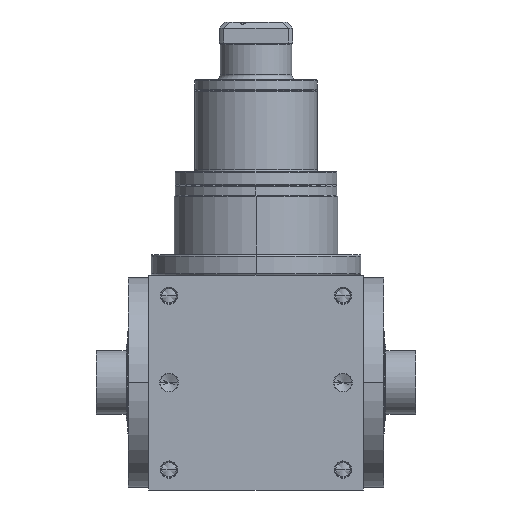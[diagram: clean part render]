
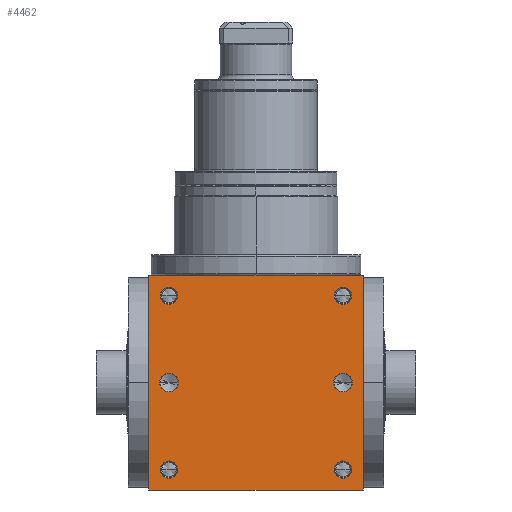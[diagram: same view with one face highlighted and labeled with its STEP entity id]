
A CAD part, front view. The second image highlights one B-rep face of the part: STEP entity #4462.
In plain terms, the highlighted planar face has unit normal (0, -1, 0).
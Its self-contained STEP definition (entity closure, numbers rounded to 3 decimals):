
#5=DIRECTION('',(1.,0.,0.));
#6=VECTOR('',#5,210.);
#7=CARTESIAN_POINT('',(-105.,-105.,-105.));
#8=LINE('',#7,#6);
#155=DIRECTION('',(0.,0.,1.));
#156=VECTOR('',#155,210.);
#157=CARTESIAN_POINT('',(105.,-105.,-105.));
#158=LINE('',#157,#156);
#209=DIRECTION('',(0.,0.,1.));
#210=VECTOR('',#209,210.);
#211=CARTESIAN_POINT('',(-105.,-105.,-105.));
#212=LINE('',#211,#210);
#213=CARTESIAN_POINT('',(85.,-105.,85.));
#214=DIRECTION('',(0.,1.,0.));
#215=DIRECTION('',(-1.,0.,0.));
#216=AXIS2_PLACEMENT_3D('',#213,#214,#215);
#218=CARTESIAN_POINT('',(85.,-105.,85.));
#219=DIRECTION('',(0.,1.,0.));
#220=DIRECTION('',(1.,0.,0.));
#221=AXIS2_PLACEMENT_3D('',#218,#219,#220);
#223=CARTESIAN_POINT('',(-85.,-105.,85.));
#224=DIRECTION('',(0.,1.,0.));
#225=DIRECTION('',(-1.,0.,0.));
#226=AXIS2_PLACEMENT_3D('',#223,#224,#225);
#228=CARTESIAN_POINT('',(-85.,-105.,85.));
#229=DIRECTION('',(0.,1.,0.));
#230=DIRECTION('',(1.,0.,0.));
#231=AXIS2_PLACEMENT_3D('',#228,#229,#230);
#233=CARTESIAN_POINT('',(85.,-105.,-85.));
#234=DIRECTION('',(0.,1.,0.));
#235=DIRECTION('',(-1.,0.,0.));
#236=AXIS2_PLACEMENT_3D('',#233,#234,#235);
#238=CARTESIAN_POINT('',(85.,-105.,-85.));
#239=DIRECTION('',(0.,1.,0.));
#240=DIRECTION('',(1.,0.,0.));
#241=AXIS2_PLACEMENT_3D('',#238,#239,#240);
#243=CARTESIAN_POINT('',(-85.,-105.,-85.));
#244=DIRECTION('',(0.,1.,0.));
#245=DIRECTION('',(-1.,0.,0.));
#246=AXIS2_PLACEMENT_3D('',#243,#244,#245);
#248=CARTESIAN_POINT('',(-85.,-105.,-85.));
#249=DIRECTION('',(0.,1.,0.));
#250=DIRECTION('',(1.,0.,0.));
#251=AXIS2_PLACEMENT_3D('',#248,#249,#250);
#253=CARTESIAN_POINT('',(-85.,-105.,0.));
#254=DIRECTION('',(0.,1.,0.));
#255=DIRECTION('',(1.,0.,0.));
#256=AXIS2_PLACEMENT_3D('',#253,#254,#255);
#258=CARTESIAN_POINT('',(-85.,-105.,0.));
#259=DIRECTION('',(0.,1.,0.));
#260=DIRECTION('',(-1.,0.,0.));
#261=AXIS2_PLACEMENT_3D('',#258,#259,#260);
#263=CARTESIAN_POINT('',(85.,-105.,0.));
#264=DIRECTION('',(0.,1.,0.));
#265=DIRECTION('',(1.,0.,0.));
#266=AXIS2_PLACEMENT_3D('',#263,#264,#265);
#268=CARTESIAN_POINT('',(85.,-105.,0.));
#269=DIRECTION('',(0.,1.,0.));
#270=DIRECTION('',(-1.,0.,0.));
#271=AXIS2_PLACEMENT_3D('',#268,#269,#270);
#285=DIRECTION('',(1.,0.,0.));
#286=VECTOR('',#285,210.);
#287=CARTESIAN_POINT('',(-105.,-105.,105.));
#288=LINE('',#287,#286);
#3596=CARTESIAN_POINT('',(-105.,-105.,-105.));
#3598=VERTEX_POINT('',#3596);
#3599=CARTESIAN_POINT('',(105.,-105.,-105.));
#3600=VERTEX_POINT('',#3599);
#3604=CARTESIAN_POINT('',(-105.,-105.,105.));
#3606=VERTEX_POINT('',#3604);
#3607=CARTESIAN_POINT('',(105.,-105.,105.));
#3608=VERTEX_POINT('',#3607);
#3763=CARTESIAN_POINT('',(76.6,-105.,85.));
#3764=CARTESIAN_POINT('',(93.4,-105.,85.));
#3765=VERTEX_POINT('',#3763);
#3766=VERTEX_POINT('',#3764);
#3771=CARTESIAN_POINT('',(-93.4,-105.,85.));
#3772=CARTESIAN_POINT('',(-76.6,-105.,85.));
#3773=VERTEX_POINT('',#3771);
#3774=VERTEX_POINT('',#3772);
#3779=CARTESIAN_POINT('',(76.6,-105.,-85.));
#3780=CARTESIAN_POINT('',(93.4,-105.,-85.));
#3781=VERTEX_POINT('',#3779);
#3782=VERTEX_POINT('',#3780);
#3787=CARTESIAN_POINT('',(-93.4,-105.,-85.));
#3788=CARTESIAN_POINT('',(-76.6,-105.,-85.));
#3789=VERTEX_POINT('',#3787);
#3790=VERTEX_POINT('',#3788);
#4111=CARTESIAN_POINT('',(-75.95,-105.,0.));
#4112=CARTESIAN_POINT('',(-94.05,-105.,
0.));
#4113=VERTEX_POINT('',#4111);
#4114=VERTEX_POINT('',#4112);
#4119=CARTESIAN_POINT('',(94.05,-105.,0.));
#4120=CARTESIAN_POINT('',(75.95,-105.,0.));
#4121=VERTEX_POINT('',#4119);
#4122=VERTEX_POINT('',#4120);
#4414=CARTESIAN_POINT('',(-105.,-105.,-105.));
#4415=DIRECTION('',(0.,-1.,0.));
#4416=DIRECTION('',(1.,0.,0.));
#4417=AXIS2_PLACEMENT_3D('',#4414,#4415,#4416);
#4418=PLANE('',#4417);
#4419=ORIENTED_EDGE('',*,*,#4254,.F.);
#4420=ORIENTED_EDGE('',*,*,#4297,.T.);
#4422=ORIENTED_EDGE('',*,*,#4421,.T.);
#4423=ORIENTED_EDGE('',*,*,#4376,.F.);
#4424=EDGE_LOOP('',(#4419,#4420,#4422,#4423));
#4425=FACE_OUTER_BOUND('',#4424,.F.);
#4427=ORIENTED_EDGE('',*,*,#4426,.F.);
#4429=ORIENTED_EDGE('',*,*,#4428,.F.);
#4430=EDGE_LOOP('',(#4427,#4429));
#4431=FACE_BOUND('',#4430,.F.);
#4433=ORIENTED_EDGE('',*,*,#4432,.F.);
#4435=ORIENTED_EDGE('',*,*,#4434,.F.);
#4436=EDGE_LOOP('',(#4433,#4435));
#4437=FACE_BOUND('',#4436,.F.);
#4439=ORIENTED_EDGE('',*,*,#4438,.F.);
#4441=ORIENTED_EDGE('',*,*,#4440,.F.);
#4442=EDGE_LOOP('',(#4439,#4441));
#4443=FACE_BOUND('',#4442,.F.);
#4445=ORIENTED_EDGE('',*,*,#4444,.F.);
#4447=ORIENTED_EDGE('',*,*,#4446,.F.);
#4448=EDGE_LOOP('',(#4445,#4447));
#4449=FACE_BOUND('',#4448,.F.);
#4451=ORIENTED_EDGE('',*,*,#4450,.F.);
#4453=ORIENTED_EDGE('',*,*,#4452,.F.);
#4454=EDGE_LOOP('',(#4451,#4453));
#4455=FACE_BOUND('',#4454,.F.);
#4457=ORIENTED_EDGE('',*,*,#4456,.F.);
#4459=ORIENTED_EDGE('',*,*,#4458,.F.);
#4460=EDGE_LOOP('',(#4457,#4459));
#4461=FACE_BOUND('',#4460,.F.);
#4462=ADVANCED_FACE('',(#4425,#4431,#4437,#4443,#4449,#4455,#4461),#4418,.T.);
#217=CIRCLE('',#216,8.4);
#222=CIRCLE('',#221,8.4);
#227=CIRCLE('',#226,8.4);
#232=CIRCLE('',#231,8.4);
#237=CIRCLE('',#236,8.4);
#242=CIRCLE('',#241,8.4);
#247=CIRCLE('',#246,8.4);
#252=CIRCLE('',#251,8.4);
#257=CIRCLE('',#256,9.05);
#262=CIRCLE('',#261,9.05);
#267=CIRCLE('',#266,9.05);
#272=CIRCLE('',#271,9.05);
#4254=EDGE_CURVE('',#3598,#3600,#8,.T.);
#4297=EDGE_CURVE('',#3598,#3606,#212,.T.);
#4376=EDGE_CURVE('',#3600,#3608,#158,.T.);
#4421=EDGE_CURVE('',#3606,#3608,#288,.T.);
#4426=EDGE_CURVE('',#3765,#3766,#217,.T.);
#4428=EDGE_CURVE('',#3766,#3765,#222,.T.);
#4432=EDGE_CURVE('',#3773,#3774,#227,.T.);
#4434=EDGE_CURVE('',#3774,#3773,#232,.T.);
#4438=EDGE_CURVE('',#3781,#3782,#237,.T.);
#4440=EDGE_CURVE('',#3782,#3781,#242,.T.);
#4444=EDGE_CURVE('',#3789,#3790,#247,.T.);
#4446=EDGE_CURVE('',#3790,#3789,#252,.T.);
#4450=EDGE_CURVE('',#4113,#4114,#257,.T.);
#4452=EDGE_CURVE('',#4114,#4113,#262,.T.);
#4456=EDGE_CURVE('',#4121,#4122,#267,.T.);
#4458=EDGE_CURVE('',#4122,#4121,#272,.T.);
